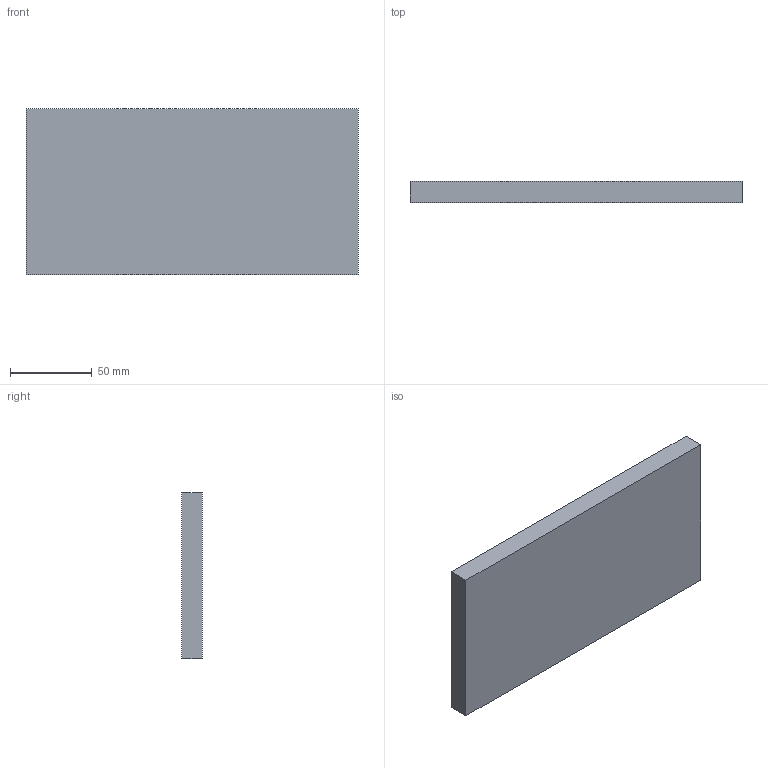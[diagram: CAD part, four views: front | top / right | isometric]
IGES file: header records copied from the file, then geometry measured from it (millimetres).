
Start section: SolidWorks IGES file using NURBS representation for surfaces
Global section: file name: C:\Users\rjehangir\Dropbox\BlueRobotics\BR-Engineering\Models\FLOAT-R1\FLOAT-8X4X0P5-R1.IGS; native system: SolidWorks 2012; preprocessor: SolidWorks 2012; author: rjehangir; date: 150608.151055; units: inch
Bounding box: 203.2 x 12.7 x 101.6 mm (x, y, z)
Surface area: 49032.2 mm2 (no closed solid volume)
Topology: 0 solids, 0 shells, 6 faces, 24 edges, 24 vertices
Faces by surface type: bspline 6
